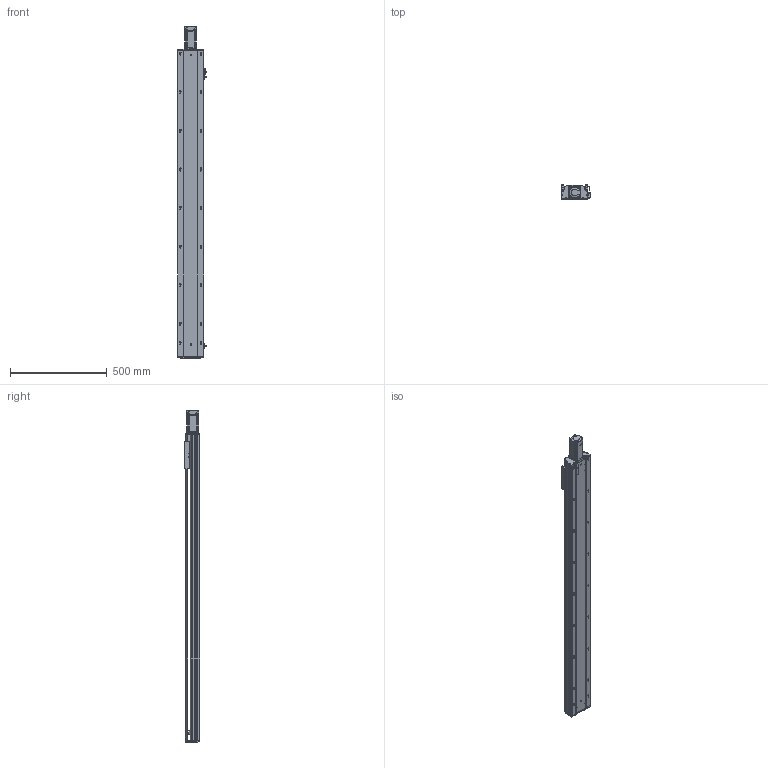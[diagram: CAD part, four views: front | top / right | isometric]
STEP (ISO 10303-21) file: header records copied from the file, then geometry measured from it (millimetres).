
FILE_DESCRIPTION (( 'STEP AP203' ), '1' );
FILE_NAME ('RY140Q-L2010-1000-MK.SLDASM_1350.step', '2021-05-27T07:34:51', ( '盈信电脑' ), ( '东莞市道滘镇水果街19号' ), 'SwSTEP 2.0', 'SolidWorks 2016', '' );
FILE_SCHEMA (( 'CONFIG_CONTROL_DESIGN' ));
Length unit declared in the file: millimetre
Products named in the file (13): 滅袉蝶18-10; RY140Q萇儂傷盓傅釱FK12(80.5酗M5); RY120外置感应片(140共用）; 15; 侂狟400W侜督萇儂; 覜茼ん672; 滅袉蝶18-15; RY140Q-1000-MK倰第菁釱_1350; RY140Q-1000-MK倰第奻裔啣_1350; RY140Q臏賑輸(20佪裝-J; RY140Q-L2010-1000-MK.SLDASM_1350; RY140ヶ裔啣; RY140綴裔啣
Assembly tree (15 placements, depth 3):
  RY140Q-L2010-1000-MK.SLDASM_1350
    RY140Q-1000-MK倰第菁釱_1350
    RY140Q臏賑輸(20佪裝-J
    RY140Q-1000-MK倰第奻裔啣_1350
    RY140ヶ裔啣
    侂狟400W侜督萇儂
      15
    RY140綴裔啣
    覜茼ん672  x3
    RY120外置感应片(140共用）
    RY140Q萇儂傷盓傅釱FK12(80.5酗M5)
    滅袉蝶18-10
    滅袉蝶18-15  x2
Bounding box: 148.7 x 78 x 1719.5 mm (x, y, z)
Volume: 4670936.3 mm3; surface area: 1746519.3 mm2
Topology: 14 solids, 14 shells, 2210 faces, 6125 edges, 3895 vertices
Faces by surface type: plane 1086, cylinder 804, cone 235, bspline 85
Entity records: 72845 total; most frequent: CARTESIAN_POINT 17422, ORIENTED_EDGE 11462, DIRECTION 10947, EDGE_CURVE 5731, VERTEX_POINT 3755, AXIS2_PLACEMENT_3D 3665, LINE 3617, VECTOR 3617
